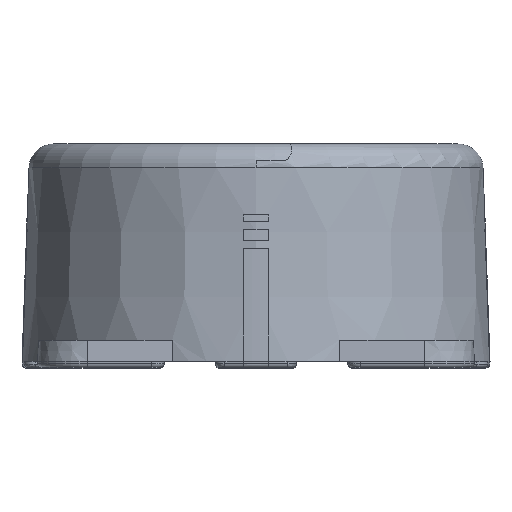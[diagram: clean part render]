
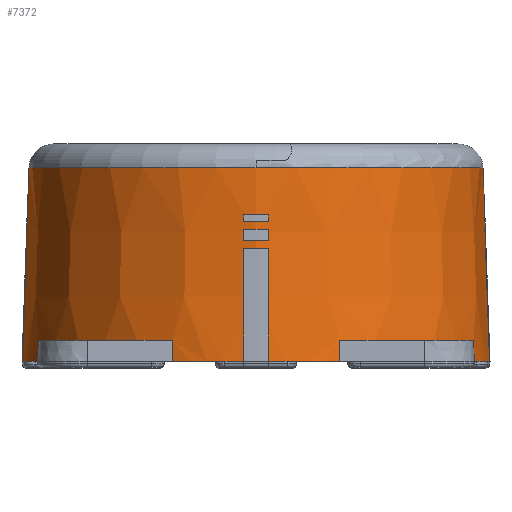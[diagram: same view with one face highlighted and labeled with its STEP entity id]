
A CAD part, top view. The second image highlights one B-rep face of the part: STEP entity #7372.
In plain terms, the highlighted conical face has half-angle 2 degrees and reference radius 18.479 mm.
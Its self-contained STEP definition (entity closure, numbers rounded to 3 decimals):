
#256=CARTESIAN_POINT('',(0.,0.,0.));
#257=DIRECTION('',(0.,1.,0.));
#258=DIRECTION('',(0.933,0.,0.359));
#259=AXIS2_PLACEMENT_3D('',#256,#257,#258);
#286=CARTESIAN_POINT('',(0.,0.,0.));
#287=DIRECTION('',(0.,1.,0.));
#288=DIRECTION('',(0.137,0.,0.991));
#289=AXIS2_PLACEMENT_3D('',#286,#287,#288);
#294=CARTESIAN_POINT('',(0.,0.,0.));
#295=DIRECTION('',(0.,1.,0.));
#296=DIRECTION('',(-0.359,0.,0.933));
#297=AXIS2_PLACEMENT_3D('',#294,#295,#296);
#324=CARTESIAN_POINT('',(0.,0.,0.));
#325=DIRECTION('',(0.,1.,0.));
#326=DIRECTION('',(-0.991,0.,0.137));
#327=AXIS2_PLACEMENT_3D('',#324,#325,#326);
#1164=CARTESIAN_POINT('',(0.,15.52,0.));
#1165=DIRECTION('',(0.,1.,0.));
#1166=DIRECTION('',(-1.,0.,0.));
#1167=AXIS2_PLACEMENT_3D('',#1164,#1165,#1166);
#1172=CARTESIAN_POINT('',(0.,15.52,0.));
#1173=DIRECTION('',(0.,1.,0.));
#1174=DIRECTION('',(0.,0.,1.));
#1175=AXIS2_PLACEMENT_3D('',#1172,#1173,#1174);
#1180=CARTESIAN_POINT('',(17.5,0.,6.731));
#1181=CARTESIAN_POINT('',(17.493,0.189,6.73));
#1182=CARTESIAN_POINT('',(17.48,0.567,6.728));
#1183=CARTESIAN_POINT('',(17.46,1.134,6.724));
#1184=CARTESIAN_POINT('',(17.447,1.511,6.722));
#1185=CARTESIAN_POINT('',(17.441,1.7,6.72));
#1190=CARTESIAN_POINT('',(0.,1.7,0.));
#1191=DIRECTION('',(0.,1.,0.));
#1192=DIRECTION('',(0.36,0.,0.933));
#1193=AXIS2_PLACEMENT_3D('',#1190,#1191,#1192);
#1198=CARTESIAN_POINT('',(6.72,1.7,17.441));
#1199=CARTESIAN_POINT('',(6.722,1.511,17.447));
#1200=CARTESIAN_POINT('',(6.724,1.134,17.46));
#1201=CARTESIAN_POINT('',(6.728,0.567,17.48));
#1202=CARTESIAN_POINT('',(6.73,0.189,17.493));
#1203=CARTESIAN_POINT('',(6.731,0.,17.5));
#1208=CARTESIAN_POINT('',(-6.731,0.,17.5));
#1209=CARTESIAN_POINT('',(-6.73,0.189,
17.493));
#1210=CARTESIAN_POINT('',(-6.728,0.567,
17.48));
#1211=CARTESIAN_POINT('',(-6.724,1.134,17.46));
#1212=CARTESIAN_POINT('',(-6.722,1.511,17.447));
#1213=CARTESIAN_POINT('',(-6.72,1.7,17.441));
#1218=CARTESIAN_POINT('',(0.,1.7,0.));
#1219=DIRECTION('',(0.,1.,0.));
#1220=DIRECTION('',(-0.933,0.,0.36));
#1221=AXIS2_PLACEMENT_3D('',#1218,#1219,#1220);
#1226=CARTESIAN_POINT('',(-17.441,1.7,6.72));
#1227=CARTESIAN_POINT('',(-17.447,1.511,6.722));
#1228=CARTESIAN_POINT('',(-17.46,1.134,6.724));
#1229=CARTESIAN_POINT('',(-17.48,0.567,
6.728));
#1230=CARTESIAN_POINT('',(-17.493,0.189,
6.73));
#1231=CARTESIAN_POINT('',(-17.5,0.,6.731));
#1251=CARTESIAN_POINT('',(0.,0.,0.));
#1252=DIRECTION('',(0.,1.,0.));
#1253=DIRECTION('',(-1.,0.,0.));
#1254=AXIS2_PLACEMENT_3D('',#1251,#1252,#1253);
#1281=CARTESIAN_POINT('',(0.,0.,0.));
#1282=DIRECTION('',(0.,1.,0.));
#1283=DIRECTION('',(0.991,0.,0.137));
#1284=AXIS2_PLACEMENT_3D('',#1281,#1282,#1283);
#1311=CARTESIAN_POINT('',(0.,0.,0.));
#1312=DIRECTION('',(0.,1.,0.));
#1313=DIRECTION('',(-0.137,0.,0.991));
#1314=AXIS2_PLACEMENT_3D('',#1311,#1312,#1313);
#3303=DIRECTION('',(0.035,-0.999,0.));
#3304=VECTOR('',#3303,15.529);
#3305=CARTESIAN_POINT('',(18.208,15.52,0.));
#3306=LINE('',#3305,#3304);
#3326=DIRECTION('',(-0.035,-0.999,0.));
#3327=VECTOR('',#3326,15.529);
#3328=CARTESIAN_POINT('',(-18.208,15.52,0.));
#3329=LINE('',#3328,#3327);
#6128=CARTESIAN_POINT('',(-18.208,15.52,0.));
#6129=CARTESIAN_POINT('',(0.,15.52,18.208));
#6130=VERTEX_POINT('',#6128);
#6131=VERTEX_POINT('',#6129);
#6132=CARTESIAN_POINT('',(18.208,15.52,0.));
#6133=VERTEX_POINT('',#6132);
#6136=CARTESIAN_POINT('',(-18.75,0.,0.));
#6137=VERTEX_POINT('',#6136);
#6138=CARTESIAN_POINT('',(18.75,0.,0.));
#6139=VERTEX_POINT('',#6138);
#6140=CARTESIAN_POINT('',(-18.573,0.,
2.569));
#6141=VERTEX_POINT('',#6140);
#6142=CARTESIAN_POINT('',(-2.569,0.,18.573));
#6143=CARTESIAN_POINT('',(2.569,0.,18.573));
#6144=VERTEX_POINT('',#6142);
#6145=VERTEX_POINT('',#6143);
#6146=CARTESIAN_POINT('',(18.573,0.,2.569));
#6147=VERTEX_POINT('',#6146);
#6184=CARTESIAN_POINT('',(-17.441,1.7,6.72));
#6185=CARTESIAN_POINT('',(-6.72,1.7,17.441));
#6186=VERTEX_POINT('',#6184);
#6187=VERTEX_POINT('',#6185);
#6188=CARTESIAN_POINT('',(6.72,1.7,17.441));
#6189=CARTESIAN_POINT('',(17.441,1.7,6.72));
#6190=VERTEX_POINT('',#6188);
#6191=VERTEX_POINT('',#6189);
#6392=CARTESIAN_POINT('',(6.731,0.,17.5));
#6393=VERTEX_POINT('',#6392);
#6394=CARTESIAN_POINT('',(17.5,0.,6.731));
#6395=VERTEX_POINT('',#6394);
#6428=CARTESIAN_POINT('',(-17.5,0.,6.731));
#6429=VERTEX_POINT('',#6428);
#6430=CARTESIAN_POINT('',(-6.731,0.,17.5));
#6431=VERTEX_POINT('',#6430);
#7339=CARTESIAN_POINT('',(0.,7.76,0.));
#7340=DIRECTION('',(0.,-1.,0.));
#7341=DIRECTION('',(-1.,0.,0.));
#7342=AXIS2_PLACEMENT_3D('',#7339,#7340,#7341);
#7343=CONICAL_SURFACE('',#7342,18.479,2.);
#7344=ORIENTED_EDGE('',*,*,#6759,.F.);
#7346=ORIENTED_EDGE('',*,*,#7345,.F.);
#7348=ORIENTED_EDGE('',*,*,#7347,.F.);
#7350=ORIENTED_EDGE('',*,*,#7349,.T.);
#7352=ORIENTED_EDGE('',*,*,#7351,.T.);
#7354=ORIENTED_EDGE('',*,*,#7353,.T.);
#7356=ORIENTED_EDGE('',*,*,#7355,.F.);
#7357=ORIENTED_EDGE('',*,*,#6715,.F.);
#7359=ORIENTED_EDGE('',*,*,#7358,.T.);
#7360=ORIENTED_EDGE('',*,*,#7332,.F.);
#7362=ORIENTED_EDGE('',*,*,#7361,.T.);
#7363=ORIENTED_EDGE('',*,*,#6731,.F.);
#7365=ORIENTED_EDGE('',*,*,#7364,.F.);
#7366=ORIENTED_EDGE('',*,*,#6743,.F.);
#7367=ORIENTED_EDGE('',*,*,#7273,.T.);
#7368=ORIENTED_EDGE('',*,*,#7286,.F.);
#7369=ORIENTED_EDGE('',*,*,#7243,.T.);
#7370=EDGE_LOOP('',(#7344,#7346,#7348,#7350,#7352,#7354,#7356,#7357,#7359,#7360,
#7362,#7363,#7365,#7366,#7367,#7368,#7369));
#7371=FACE_OUTER_BOUND('',#7370,.F.);
#260=CIRCLE('',#259,18.75);
#290=CIRCLE('',#289,18.75);
#298=CIRCLE('',#297,18.75);
#328=CIRCLE('',#327,18.75);
#1168=CIRCLE('',#1167,18.208);
#1176=CIRCLE('',#1175,18.208);
#1186=B_SPLINE_CURVE_WITH_KNOTS('',3,(#1180,#1181,#1182,#1183,#1184,#1185),
.UNSPECIFIED.,.F.,.F.,(4,1,1,4),(0.,0.333,0.667,1.),
.UNSPECIFIED.);
#1194=CIRCLE('',#1193,18.691);
#1204=B_SPLINE_CURVE_WITH_KNOTS('',3,(#1198,#1199,#1200,#1201,#1202,#1203),
.UNSPECIFIED.,.F.,.F.,(4,1,1,4),(0.,0.333,0.667,1.),
.UNSPECIFIED.);
#1214=B_SPLINE_CURVE_WITH_KNOTS('',3,(#1208,#1209,#1210,#1211,#1212,#1213),
.UNSPECIFIED.,.F.,.F.,(4,1,1,4),(0.,0.333,0.667,1.),
.UNSPECIFIED.);
#1222=CIRCLE('',#1221,18.691);
#1232=B_SPLINE_CURVE_WITH_KNOTS('',3,(#1226,#1227,#1228,#1229,#1230,#1231),
.UNSPECIFIED.,.F.,.F.,(4,1,1,4),(0.,0.333,0.667,1.),
.UNSPECIFIED.);
#1255=CIRCLE('',#1254,18.75);
#1285=CIRCLE('',#1284,18.75);
#1315=CIRCLE('',#1314,18.75);
#6715=EDGE_CURVE('',#6395,#6147,#260,.T.);
#6731=EDGE_CURVE('',#6145,#6393,#290,.T.);
#6743=EDGE_CURVE('',#6431,#6144,#298,.T.);
#6759=EDGE_CURVE('',#6141,#6429,#328,.T.);
#7243=EDGE_CURVE('',#6186,#6429,#1232,.T.);
#7273=EDGE_CURVE('',#6431,#6187,#1214,.T.);
#7286=EDGE_CURVE('',#6186,#6187,#1222,.T.);
#7332=EDGE_CURVE('',#6190,#6191,#1194,.T.);
#7345=EDGE_CURVE('',#6137,#6141,#1255,.T.);
#7347=EDGE_CURVE('',#6130,#6137,#3329,.T.);
#7349=EDGE_CURVE('',#6130,#6131,#1168,.T.);
#7351=EDGE_CURVE('',#6131,#6133,#1176,.T.);
#7353=EDGE_CURVE('',#6133,#6139,#3306,.T.);
#7355=EDGE_CURVE('',#6147,#6139,#1285,.T.);
#7358=EDGE_CURVE('',#6395,#6191,#1186,.T.);
#7361=EDGE_CURVE('',#6190,#6393,#1204,.T.);
#7364=EDGE_CURVE('',#6144,#6145,#1315,.T.);
#7372=ADVANCED_FACE('',(#7371),#7343,.T.);
